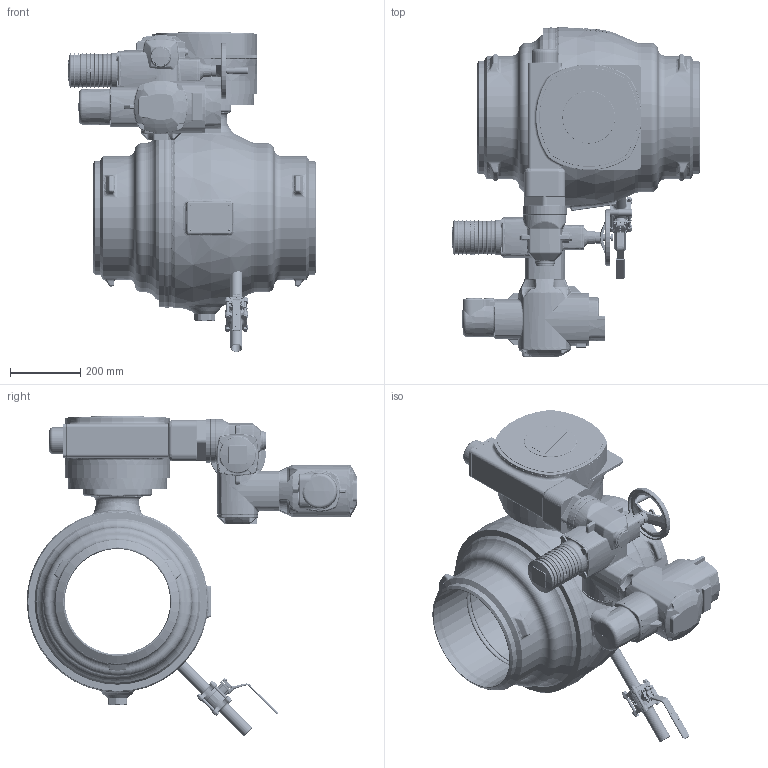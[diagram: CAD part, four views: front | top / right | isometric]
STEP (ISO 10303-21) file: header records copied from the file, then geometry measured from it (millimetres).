
FILE_DESCRIPTION((''),'2;1');
FILE_NAME('300_ASM','2017-01-16T',('schwaba'),('RAND'),'PRO/ENGINEER BY PARAMETRIC TECHNOLOGY CORPORATION, 2016100','PRO/ENGINEER BY PARAMETRIC TECHNOLOGY CORPORATION, 2016100','');
FILE_SCHEMA(('CONFIG_CONTROL_DESIGN'));
Products named in the file (3): KHSVI_300_VVSN_FR_WE_ENTL_O_IT; GS125_F25_SA07_AM_ZWPL_DN300; 300_ASM
Assembly tree (2 placements, depth 2):
  300_ASM
    KHSVI_300_VVSN_FR_WE_ENTL_O_IT
    GS125_F25_SA07_AM_ZWPL_DN300
Bounding box: 707.5 x 940 x 910.09 mm (x, y, z)
Volume: 60998827 mm3; surface area: 4944468.2 mm2
Topology: 12 solids, 12 shells, 6246 faces, 15459 edges, 9415 vertices
Faces by surface type: plane 2573, bspline 1174, cylinder 1147, torus 725, cone 460, sphere 167
Entity records: 357433 total; most frequent: CARTESIAN_POINT 216695, ORIENTED_EDGE 30802, DIRECTION 28007, EDGE_CURVE 15401, AXIS2_PLACEMENT_3D 10909, VERTEX_POINT 9415, EDGE_LOOP 6574, FACE_OUTER_BOUND 6246
